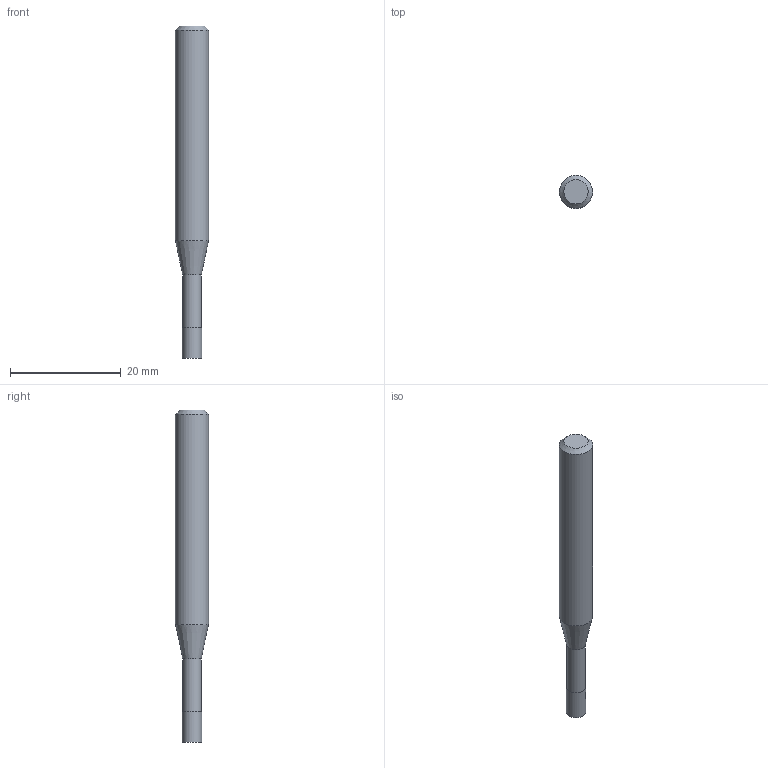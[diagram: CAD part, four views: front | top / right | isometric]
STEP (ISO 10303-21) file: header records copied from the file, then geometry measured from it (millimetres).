
FILE_DESCRIPTION((''),'2;1');
FILE_NAME('C:\Users\nsx150\AppData\Local\Temp\Mastercam 2021\17T8Q8S9EB\TEMP.step','2021-04-21T16:16:09',(''),(''),'STEP Write','Mastercam 2021 ... CNC Software, Inc.','');
FILE_SCHEMA(('AUTOMOTIVE_DESIGN'));
Length unit declared in the file: millimetre
Products named in the file (1): None
Bounding box: 6 x 6 x 60 mm (x, y, z)
Volume: 1337.1 mm3; surface area: 1031.4 mm2
Topology: 2 solids, 2 shells, 9 faces, 12 edges, 7 vertices
Faces by surface type: plane 4, cylinder 3, cone 2
Full cylindrical faces by diameter (mm): 3.35 x1, 3.5 x1, 6 x1
Entity records: 211 total; most frequent: DIRECTION 36, CARTESIAN_POINT 25, AXIS2_PLACEMENT_3D 18, ORIENTED_EDGE 14, EDGE_LOOP 14, STYLED_ITEM 12, ADVANCED_FACE 9, FACE_BOUND 8
